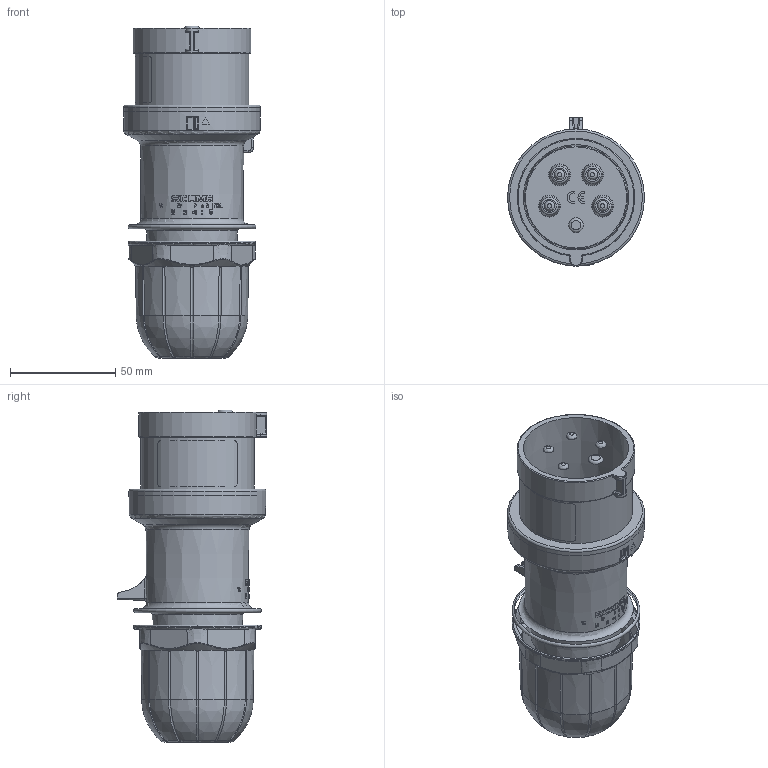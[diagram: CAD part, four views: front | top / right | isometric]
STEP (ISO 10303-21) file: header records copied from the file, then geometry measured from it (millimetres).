
FILE_DESCRIPTION(/* description */ (''),/* implementation_level */ '2;1');
FILE_NAME(/* name */ '4002064.stp',/* time_stamp */ '2017-04-11T22:24:44+02:00',/* author */ (''),/* organization */ (''),/* preprocessor_version */ 'ST-DEVELOPER v16',/* originating_system */ 'SIEMENS PLM Software NX 11.0',/* authorisation */ '');
FILE_SCHEMA (('AUTOMOTIVE_DESIGN { 1 0 10303 214 3 1 1 1 }'));
Length unit declared in the file: millimetre
Products named in the file (1): 4002064_LINKEDEXT_jt
Bounding box: 65 x 70.8 x 157.5 mm (x, y, z)
Surface area: 45558.5 mm2 (no closed solid volume)
Topology: 0 solids, 62 shells, 283 faces, 1369 edges, 1126 vertices
Faces by surface type: cone 68, plane 58, torus 52, cylinder 48, bspline 43, sphere 13, revolution 1
Full cylindrical faces by diameter (mm): 16 x1, 49 x1, 53.8 x1, 60.7 x1, 65 x1
Entity records: 23424 total; most frequent: CARTESIAN_POINT 11235, DIRECTION 1842, ORIENTED_EDGE 1790, EDGE_CURVE 1309, VERTEX_POINT 1106, AXIS2_PLACEMENT_3D 770, B_SPLINE_CURVE_WITH_KNOTS 479, CIRCLE 409
